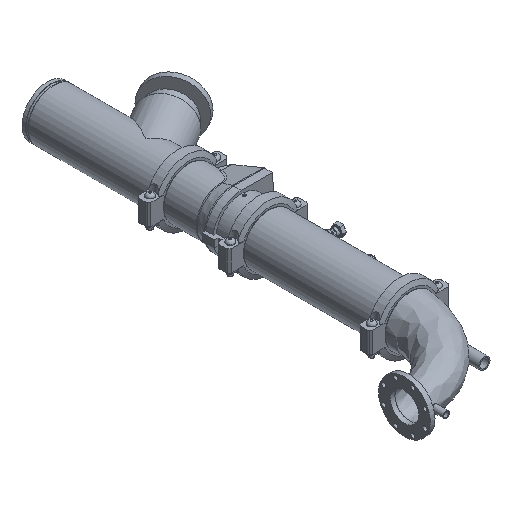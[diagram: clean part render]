
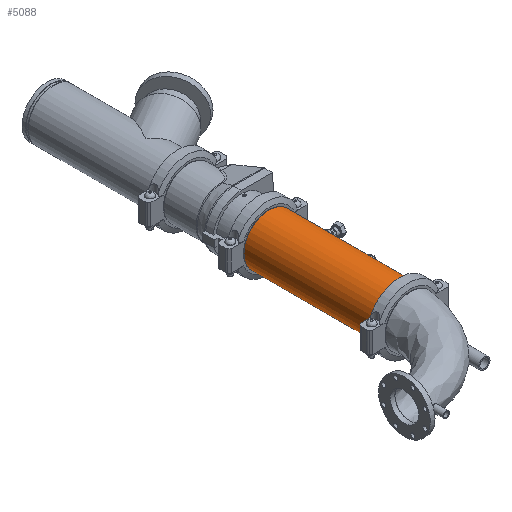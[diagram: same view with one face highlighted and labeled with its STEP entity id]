
A CAD part, isometric view. The second image highlights one B-rep face of the part: STEP entity #5088.
In plain terms, the highlighted cylindrical face has radius 136.525 mm (diameter 273.05 mm), a full revolution.
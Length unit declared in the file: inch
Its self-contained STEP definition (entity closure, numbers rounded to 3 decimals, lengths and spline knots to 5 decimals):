
#834=CYLINDRICAL_SURFACE('',#5428,5.375);
#944=FACE_BOUND('',#1433,.T.);
#1104=FACE_OUTER_BOUND('',#1432,.T.);
#1432=EDGE_LOOP('',(#3275));
#1433=EDGE_LOOP('',(#3276));
#1914=CIRCLE('',#5427,5.375);
#1915=CIRCLE('',#5429,5.375);
#2160=VERTEX_POINT('',#7556);
#2161=VERTEX_POINT('',#7559);
#2628=EDGE_CURVE('',#2160,#2160,#1914,.T.);
#2629=EDGE_CURVE('',#2161,#2161,#1915,.T.);
#3275=ORIENTED_EDGE('',*,*,#2629,.F.);
#3276=ORIENTED_EDGE('',*,*,#2628,.T.);
#5088=ADVANCED_FACE('',(#1104,#944),#834,.T.);
#5427=AXIS2_PLACEMENT_3D('',#7557,#6029,#6030);
#5428=AXIS2_PLACEMENT_3D('',#7558,#6031,#6032);
#5429=AXIS2_PLACEMENT_3D('',#7560,#6033,#6034);
#6029=DIRECTION('center_axis',(1.,0.,0.));
#6030=DIRECTION('ref_axis',(0.,0.,-1.));
#6031=DIRECTION('center_axis',(1.,0.,0.));
#6032=DIRECTION('ref_axis',(0.,1.,0.));
#6033=DIRECTION('center_axis',(1.,0.,0.));
#6034=DIRECTION('ref_axis',(0.,0.,-1.));
#7556=CARTESIAN_POINT('',(-13.77725,5.375,0.));
#7557=CARTESIAN_POINT('Origin',(-13.77725,0.,0.));
#7558=CARTESIAN_POINT('Origin',(0.,0.,0.));
#7559=CARTESIAN_POINT('',(13.77725,5.375,0.));
#7560=CARTESIAN_POINT('Origin',(13.77725,0.,0.));
